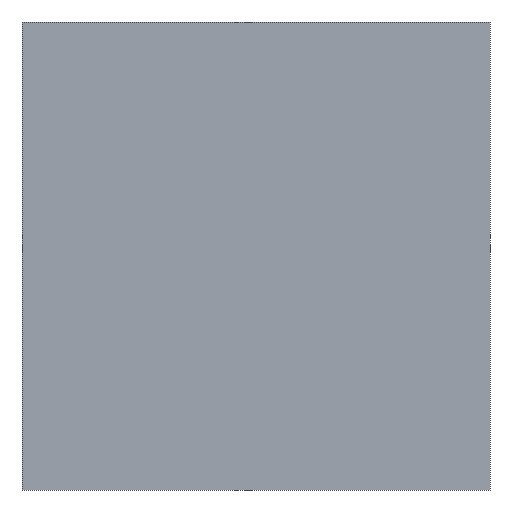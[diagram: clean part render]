
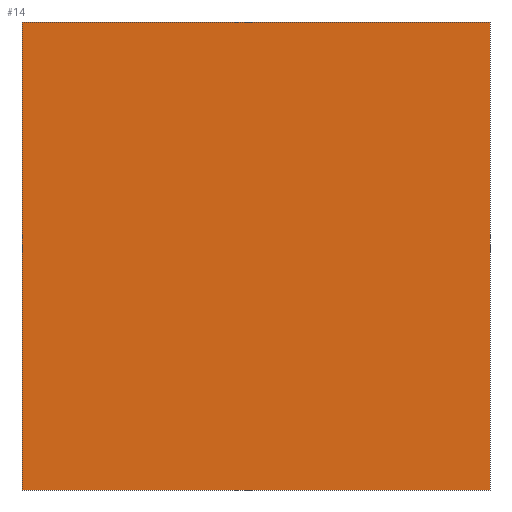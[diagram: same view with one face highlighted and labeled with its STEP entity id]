
A CAD part, front view. The second image highlights one B-rep face of the part: STEP entity #14.
In plain terms, the highlighted planar face has unit normal (0, -1, 0).
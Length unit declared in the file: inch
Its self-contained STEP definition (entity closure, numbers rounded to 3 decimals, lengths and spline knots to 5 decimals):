
#14=ADVANCED_FACE('',(#20),#88,.T.);
#20=FACE_OUTER_BOUND('',#26,.T.);
#26=EDGE_LOOP('',(#32,#33,#34,#35));
#32=ORIENTED_EDGE('',*,*,#56,.T.);
#33=ORIENTED_EDGE('',*,*,#65,.T.);
#34=ORIENTED_EDGE('',*,*,#60,.F.);
#35=ORIENTED_EDGE('',*,*,#64,.F.);
#56=EDGE_CURVE('',#80,#81,#68,.T.);
#60=EDGE_CURVE('',#84,#85,#72,.T.);
#64=EDGE_CURVE('',#80,#84,#76,.T.);
#65=EDGE_CURVE('',#81,#85,#77,.T.);
#68=B_SPLINE_CURVE_WITH_KNOTS('',1,(#217,#218),.UNSPECIFIED.,.F.,.F.,(2,
2),(0.,6.),.UNSPECIFIED.);
#72=B_SPLINE_CURVE_WITH_KNOTS('',1,(#225,#226),.UNSPECIFIED.,.F.,.F.,(2,
2),(0.,6.),.UNSPECIFIED.);
#76=B_SPLINE_CURVE_WITH_KNOTS('',1,(#233,#234),.UNSPECIFIED.,.F.,.F.,(2,
2),(0.,6.),.UNSPECIFIED.);
#77=B_SPLINE_CURVE_WITH_KNOTS('',1,(#235,#236),.UNSPECIFIED.,.F.,.F.,(2,
2),(0.,6.),.UNSPECIFIED.);
#80=VERTEX_POINT('',#209);
#81=VERTEX_POINT('',#210);
#84=VERTEX_POINT('',#213);
#85=VERTEX_POINT('',#214);
#88=PLANE('',#185);
#185=AXIS2_PLACEMENT_3D('',#203,#194,$);
#194=DIRECTION('',(0.,-1.,0.));
#203=CARTESIAN_POINT('',(0.,0.,0.));
#209=CARTESIAN_POINT('',(0.,0.,0.));
#210=CARTESIAN_POINT('',(6.,0.,0.));
#213=CARTESIAN_POINT('',(0.,0.,6.));
#214=CARTESIAN_POINT('',(6.,0.,6.));
#217=CARTESIAN_POINT('',(0.,0.,0.));
#218=CARTESIAN_POINT('',(6.,0.,0.));
#225=CARTESIAN_POINT('',(0.,0.,6.));
#226=CARTESIAN_POINT('',(6.,0.,6.));
#233=CARTESIAN_POINT('',(0.,0.,0.));
#234=CARTESIAN_POINT('',(0.,0.,6.));
#235=CARTESIAN_POINT('',(6.,0.,0.));
#236=CARTESIAN_POINT('',(6.,0.,6.));
